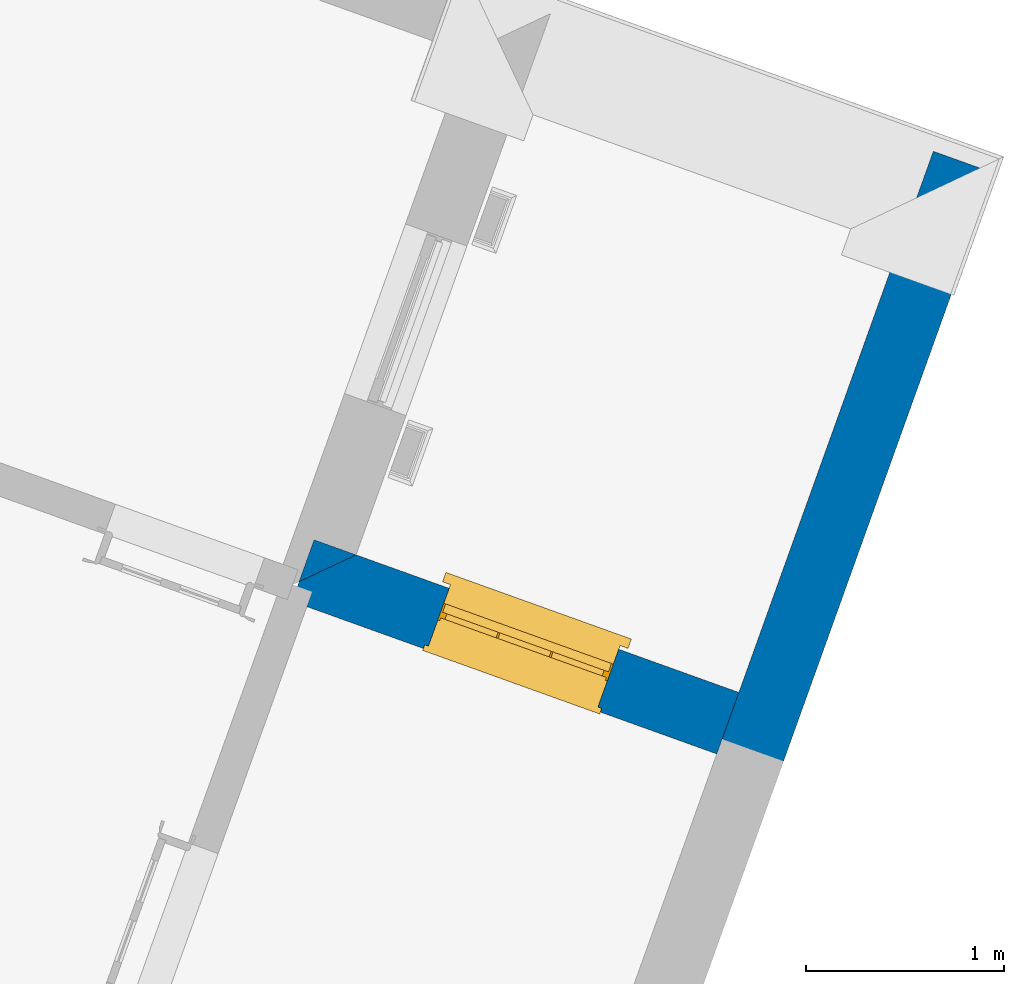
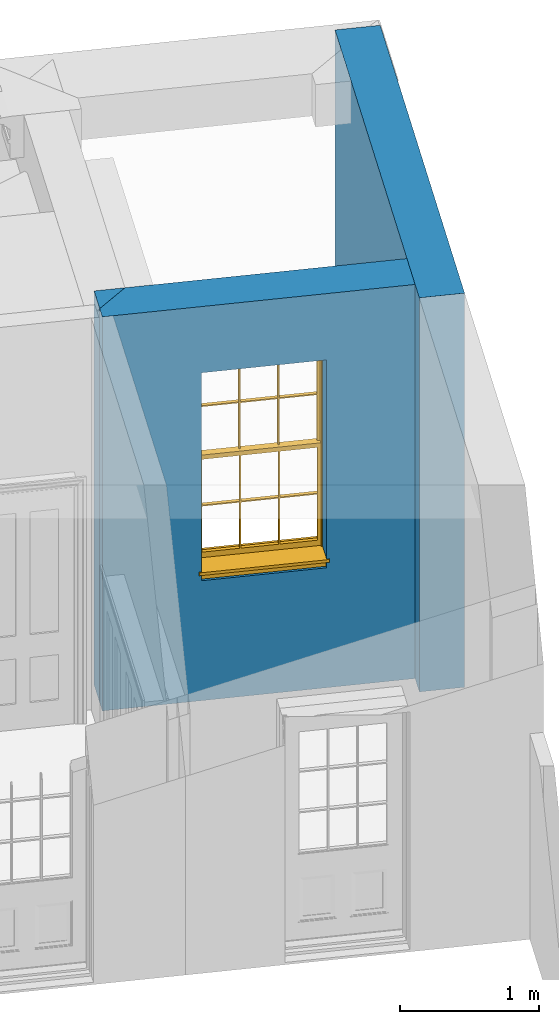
# One storey, part 5 of 8: 3 walls, 1 window, 1 opening.
"""IFC4 building model written with IfcOpenShell, lengths in metres."""

from ifc_helpers import new_model, si_unit, frame, origin, origin_with_axes, place, context, subcontext, project, spatial, polyline, outline, extrude, faceted_brep, source, transform, mapped, material, layer, layer_set, layer_usage, type_object, type_shapes, element, fill, save


model = new_model("IFC4")

# Units and contexts
model_context = context("Model", 3, world=origin_with_axes())
body_context = subcontext(model_context, "Body", "Model", "MODEL_VIEW")
ifc_project = project(units=[si_unit("PLANEANGLEUNIT", "RADIAN"), si_unit("MASSUNIT", "GRAM", prefix="KILO"), si_unit("FORCEUNIT", "NEWTON", prefix="KILO"), si_unit("LENGTHUNIT", "METRE"), si_unit("AREAUNIT", "SQUARE_METRE"), si_unit("VOLUMEUNIT", "CUBIC_METRE")], contexts=[model_context, model_context])

# Sites, building, storey
site_1_placement = place(None, origin_with_axes())
site_1 = spatial("IfcSite", under=ifc_project, at=site_1_placement, Name="Tamar")
site_2_placement = place(site_1_placement, origin_with_axes())
site_2 = spatial("IfcSite", under=site_1, at=site_2_placement, Name="Site plot-25", CompositionType="ELEMENT")
building_placement = place(None, origin_with_axes())
building = spatial("IfcBuilding", under=site_2, at=building_placement, Name="Building plot-25", CompositionType="ELEMENT")
storey_placement = place(None, frame((0.0, 0.0, 26.0), z_axis=(0.0, 0.0, 1.0), x_axis=(1.0, 0.0, 0.0)))
storey = spatial("IfcBuildingStorey", under=building, at=storey_placement, Name="plot-25 0", CompositionType="ELEMENT", Elevation=26.0)

# Wall, opening, window
ifc_material_1 = material(Name="Masonry")
ifc_layer_1 = layer(ifc_material_1, 0.33, ventilated=False)
ifc_layer_set_1 = layer_set([ifc_layer_1], Name="exterior_0.08_0.25")
ifc_layer_usage_1 = layer_usage(ifc_layer_set_1, "AXIS2", "POSITIVE", -0.25)
wall_type_1 = type_object("IfcWallType", Name="exterior_0.08_0.25", PredefinedType="SOLIDWALL", material=ifc_layer_set_1)
wall_1_placement = place(storey_placement, frame((280.510084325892, 273.203345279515, 0.0), z_axis=(0.0, 0.0, 1.0), x_axis=(-0.941087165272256, 0.338164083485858, 0.0)))
wall_1 = element("IfcWall", 1, at=wall_1_placement, inside=storey, type_object=wall_type_1, material=ifc_layer_usage_1, Name="exterior", context=body_context, shape_type="SweptSolid", body=[
    extrude(outline(polyline([(-0.249999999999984, 0.0800000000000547), (-0.250000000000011, -0.249999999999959), (2.35977770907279, -0.249999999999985), (2.35977770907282, 0.0800000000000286), (-0.249999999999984, 0.0800000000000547)])), origin_with_axes(), (0.0, 0.0, 1.0), 3.45),
])
opening_placement = place(wall_1_placement, frame((0.724888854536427, 0.0, 1.05)))
opening = element("IfcOpeningElement", 2, at=opening_placement, cuts=wall_1, Name="My Opening", ObjectType="Opening", context=body_context, shape_type="SweptSolid", body=[
    extrude(outline(polyline([(0.0, -0.27000000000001), (0.909999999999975, -0.269999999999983), (0.90999999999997, 1.10000000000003), (-4.66293670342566e-15, 1.1), (0.0, -0.27000000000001)])), origin_with_axes(), (0.0, 0.0, 1.0), 1.82),
])
window_type = type_object("IfcWindowType", Name="sash_big", PartitioningType="DOUBLE_PANEL_HORIZONTAL", PredefinedType="NOTDEFINED")
shared_shape = source(origin(), body_context, "Body", "Brep", [
    faceted_brep([(0.033125, 0.145, 0.975209), (0.01, 0.145, 0.975209), (0.033125, 0.145, 1.376042), (0.876875, 0.145, 0.975209), (0.876875, 0.145, 1.376042), (0.9, 0.145, 0.975209), (0.876875, 0.145, 1.386042), (0.876875, 0.145, 1.786875), (0.9, 0.145, 1.81), (0.033125, 0.145, 1.786875), (0.033125, 0.145, 1.386042), (0.01, 0.145, 1.81), (0.876875, 0.115, 1.376042), (0.876875, 0.115, 0.975209), (0.9, 0.115, 0.937083), (0.033125, 0.115, 1.786875), (0.01, 0.115, 1.81), (0.033125, 0.115, 1.386042), (0.01, 0.115, 0.937083), (0.033125, 0.115, 0.975209), (0.033125, 0.115, 1.376042), (0.876875, 0.115, 1.786875), (0.876875, 0.115, 1.386042), (0.9, 0.115, 1.81), (0.033125, 0.145, 0.937083), (0.01, 0.145, 0.937083), (0.033125, 0.145, 0.53625), (0.876875, 0.145, 0.937083), (0.876875, 0.145, 0.53625), (0.9, 0.145, 0.937083), (0.876875, 0.145, 0.52625), (0.876875, 0.145, 0.125417), (0.9, 0.145, 0.077167), (0.033125, 0.145, 0.125417), (0.033125, 0.145, 0.52625), (0.01, 0.145, 0.077167), (-0.0425, 0.0, 0.01), (-0.0425, -0.05, 0.001667), (0.0, 0.0, 0.01), (0.9525, 0.0, 0.01), (0.91, 0.0, 0.01), (0.9525, -0.05, 0.001667), (-0.02, 0.33, 0.077167), (0.0, 0.33, 0.077167), (-0.02, 0.36, 0.077167), (0.0, 0.19, 0.077167), (0.01, 0.19, 0.077167), (0.91, 0.19, 0.077167), (0.91, 0.33, 0.077167), (0.9, 0.19, 0.077167), (0.93, 0.33, 0.077167), (0.93, 0.36, 0.077167), (0.01, 0.175, 0.975209), (0.9, 0.175, 0.975209), (0.876875, 0.175, 0.125417), (0.876875, 0.175, 0.52625), (0.9, 0.175, 0.077167), (0.876875, 0.175, 0.53625), (0.876875, 0.175, 0.937083), (0.033125, 0.175, 0.125417), (0.01, 0.175, 0.077167), (0.033125, 0.175, 0.52625), (0.033125, 0.175, 0.937083), (0.033125, 0.175, 0.53625), (-0.02, 0.33, 0.052167), (-0.02, 0.36, 0.052167), (0.93, 0.36, 0.052167), (0.93, 0.33, 0.052167), (0.91, 0.33, 0.052167), (0.0, 0.33, 0.052167), (0.91, 0.1, 0.026667), (0.0, 0.1, 0.026667), (-0.0425, -0.05, -0.123333), (0.9525, -0.05, -0.123333), (-0.0425, 0.0, -0.123333), (0.9525, 0.0, -0.123333), (0.01, 0.19, 1.81), (0.9, 0.19, 1.81), (0.0, 0.19, 1.82), (0.91, 0.19, 1.82), (0.01, 0.1, 0.077167), (0.9, 0.1, 0.077167), (0.592292, 0.145, 0.125417), (0.592292, 0.175, 0.125417), (0.317708, 0.175, 0.125417), (0.317708, 0.145, 0.125417), (0.592292, 0.145, 0.53625), (0.317708, 0.145, 0.53625), (0.317708, 0.145, 0.52625), (0.592292, 0.145, 0.52625), (0.592292, 0.175, 0.53625), (0.317708, 0.175, 0.53625), (0.592292, 0.115, 1.386042), (0.592292, 0.145, 1.386042), (0.317708, 0.145, 1.386042), (0.317708, 0.115, 1.386042), (0.317708, 0.115, 1.376042), (0.592292, 0.115, 1.376042), (0.317708, 0.145, 1.376042), (0.592292, 0.145, 1.376042), (0.602292, 0.115, 1.376042), (0.592292, 0.115, 0.975209), (0.602292, 0.115, 0.975209), (0.602292, 0.145, 0.975209), (0.592292, 0.145, 0.975209), (0.602292, 0.145, 1.376042), (0.602292, 0.175, 0.53625), (0.602292, 0.145, 0.53625), (0.317708, 0.175, 0.52625), (0.307708, 0.175, 0.125417), (0.307708, 0.175, 0.52625), (0.602292, 0.175, 0.52625), (0.602292, 0.175, 0.125417), (0.592292, 0.175, 0.52625), (0.307708, 0.175, 0.53625), (0.317708, 0.175, 0.937083), (0.307708, 0.175, 0.937083), (0.602292, 0.175, 0.937083), (0.592292, 0.175, 0.937083), (0.307708, 0.145, 0.52625), (0.307708, 0.145, 0.125417), (0.307708, 0.145, 0.53625), (0.307708, 0.145, 0.937083), (0.592292, 0.145, 0.937083), (0.317708, 0.145, 0.937083), (0.602292, 0.145, 0.937083), (0.602292, 0.145, 0.52625), (0.602292, 0.145, 0.125417), (0.307708, 0.115, 1.386042), (0.307708, 0.115, 1.376042), (0.307708, 0.115, 0.975209), (0.317708, 0.115, 0.975209), (0.317708, 0.115, 1.786875), (0.307708, 0.115, 1.786875), (0.602292, 0.115, 1.786875), (0.592292, 0.115, 1.786875), (0.602292, 0.115, 1.386042), (0.602292, 0.145, 1.386042), (0.307708, 0.145, 1.386042), (0.307708, 0.145, 1.786875), (0.317708, 0.145, 1.786875), (0.592292, 0.145, 1.786875), (0.602292, 0.145, 1.786875), (0.307708, 0.145, 1.376042), (0.317708, 0.145, 0.975209), (0.307708, 0.145, 0.975209), (0.91, 0.1, 1.82), (0.9, 0.1, 1.81), (0.01, 0.1, 1.81), (0.0, 0.1, 1.82), (0.91, 0.0, 0.0), (0.0, 0.0, 0.0), (0.91, 0.33, 0.0), (0.0, 0.33, 0.0)], [[[0, 1, 2]], [[3, 4, 5]], [[6, 7, 8]], [[9, 10, 11]], [[12, 13, 14]], [[15, 16, 17]], [[18, 19, 20]], [[21, 22, 23]], [[24, 25, 26]], [[27, 28, 29]], [[30, 31, 32]], [[33, 34, 35]], [[14, 27, 29]], [[25, 24, 18]], [[36, 37, 38]], [[39, 40, 41]], [[42, 43, 44]], [[45, 46, 43]], [[47, 48, 49]], [[50, 51, 48]], [[1, 0, 52]], [[5, 53, 3]], [[54, 55, 56]], [[57, 58, 53]], [[59, 60, 61]], [[62, 63, 52]], [[48, 43, 46, 49]], [[51, 44, 43, 48]], [[64, 42, 44, 65]], [[65, 44, 51, 66]], [[66, 51, 50, 67]], [[65, 66, 68, 69]], [[60, 56, 49, 46]], [[70, 71, 38, 40]], [[37, 41, 40, 38]], [[37, 72, 73, 41]], [[74, 75, 73, 72]], [[8, 11, 76, 77]], [[76, 78, 79, 77]], [[32, 35, 80, 81]], [[81, 80, 71, 70]], [[82, 83, 84, 85]], [[86, 87, 88, 89]], [[86, 90, 91, 87]], [[92, 93, 94, 95]], [[92, 95, 96, 97]], [[96, 98, 99, 97]], [[100, 97, 101, 102]], [[103, 104, 99, 105]], [[97, 99, 104, 101]], [[102, 103, 105, 100]], [[28, 57, 106, 107]], [[108, 84, 109, 110]], [[111, 112, 83, 113]], [[114, 110, 61, 63]], [[90, 113, 108, 91]], [[115, 91, 114, 116]], [[117, 106, 90, 118]], [[111, 106, 57, 55]], [[119, 110, 109, 120]], [[34, 61, 110, 119]], [[89, 113, 83, 82]], [[88, 108, 113, 89]], [[85, 84, 108, 88]], [[121, 114, 63, 26]], [[122, 116, 114, 121]], [[123, 118, 90, 86]], [[87, 91, 115, 124]], [[107, 106, 117, 125]], [[126, 111, 55, 30]], [[127, 112, 111, 126]], [[126, 30, 28, 107]], [[88, 119, 120, 85]], [[126, 89, 82, 127]], [[125, 123, 86, 107]], [[121, 26, 34, 119]], [[124, 122, 121, 87]], [[128, 17, 20, 129]], [[96, 129, 130, 131]], [[132, 133, 128, 95]], [[134, 135, 92, 136]], [[100, 12, 22, 136]], [[137, 6, 4, 105]], [[94, 138, 139, 140]], [[137, 93, 141, 142]], [[99, 98, 94, 93]], [[143, 2, 10, 138]], [[144, 145, 143, 98]], [[129, 143, 145, 130]], [[20, 2, 143, 129]], [[131, 144, 98, 96]], [[128, 138, 10, 17]], [[133, 139, 138, 128]], [[135, 141, 93, 92]], [[95, 94, 140, 132]], [[22, 6, 137, 136]], [[136, 137, 142, 134]], [[100, 105, 4, 12]], [[107, 86, 89, 126]], [[106, 111, 113, 90]], [[91, 108, 110, 114]], [[87, 121, 119, 88]], [[97, 100, 136, 92]], [[129, 96, 95, 128]], [[98, 143, 138, 94]], [[105, 99, 93, 137]], [[131, 101, 104, 144]], [[124, 115, 118, 123]], [[132, 140, 141, 135]], [[120, 109, 59, 33]], [[15, 9, 139, 133]], [[134, 142, 7, 21]], [[31, 54, 112, 127]], [[36, 74, 72, 37]], [[39, 41, 73, 75]], [[18, 14, 101, 131]], [[23, 16, 132, 135]], [[83, 56, 60, 84]], [[52, 53, 118, 115]], [[53, 52, 144, 104]], [[11, 8, 141, 140]], [[14, 18, 124, 123]], [[2, 1, 11, 10]], [[8, 5, 4, 6]], [[57, 53, 56, 55]], [[60, 52, 63, 61]], [[26, 25, 35, 34]], [[32, 29, 28, 30]], [[14, 23, 22, 12]], [[18, 20, 17, 16]], [[19, 0, 2, 20]], [[17, 10, 9, 15]], [[12, 4, 3, 13]], [[21, 7, 6, 22]], [[27, 58, 57, 28]], [[30, 55, 54, 31]], [[33, 59, 61, 34]], [[26, 63, 62, 24]], [[5, 8, 77, 53]], [[76, 11, 1, 52]], [[46, 45, 78, 76]], [[49, 77, 79, 47]], [[70, 146, 147, 81]], [[71, 80, 148, 149]], [[19, 130, 145, 0]], [[102, 13, 3, 103]], [[116, 122, 24, 62]], [[29, 32, 81, 14]], [[80, 35, 25, 18]], [[60, 46, 76, 52]], [[77, 49, 56, 53]], [[23, 14, 81, 147]], [[16, 148, 80, 18]], [[35, 85, 120]], [[120, 33, 35]], [[127, 82, 32]], [[32, 31, 127]], [[32, 82, 85, 35]], [[102, 101, 14]], [[14, 13, 102]], [[18, 131, 130]], [[130, 19, 18]], [[134, 21, 23]], [[23, 135, 134]], [[16, 15, 133]], [[133, 132, 16]], [[11, 140, 139]], [[139, 9, 11]], [[142, 141, 8]], [[8, 7, 142]], [[23, 147, 148, 16]], [[146, 149, 148, 147]], [[52, 115, 116]], [[116, 62, 52]], [[118, 53, 117]], [[58, 117, 53]], [[27, 125, 117, 58]], [[56, 83, 112]], [[112, 54, 56]], [[109, 84, 60]], [[60, 59, 109]], [[125, 27, 14]], [[14, 123, 125]], [[122, 124, 18]], [[18, 24, 122]], [[145, 144, 52]], [[52, 0, 145]], [[103, 3, 53]], [[53, 104, 103]], [[79, 78, 149, 146]], [[78, 45, 71, 149]], [[146, 70, 47, 79]], [[150, 75, 74, 151]], [[68, 66, 67]], [[48, 68, 67, 50]], [[69, 64, 65]], [[42, 64, 69, 43]], [[69, 68, 152, 153]], [[70, 68, 48, 47]], [[150, 152, 68, 70]], [[43, 69, 71, 45]], [[69, 153, 151, 71]], [[152, 150, 151, 153]], [[38, 151, 74, 36]], [[71, 151, 38]], [[39, 75, 150, 40]], [[40, 150, 70]]]),
])
type_shapes(window_type, [shared_shape])
window_placement = place(storey_placement, frame((279.91920503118, 273.702570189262, 1.05), z_axis=(0.0, 0.0, 1.0), x_axis=(-0.856389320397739, 0.307729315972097, 0.0)))
window = element("IfcWindow", 3, at=window_placement, inside=storey, type_object=window_type, Name="kitchen outside window", OverallHeight=1.82, OverallWidth=0.91, context=body_context, shape_type="MappedRepresentation", body=[
    mapped(shared_shape, transform((0.0, 0.0, 0.0), scale=1.0)),
])
fill(opening, window)

# Walls
wall_2_placement = place(storey_placement, frame((278.289327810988, 274.001337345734, 0.0), z_axis=(0.0, 0.0, 1.0), x_axis=(-0.941087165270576, 0.338164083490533, 0.0)))
element("IfcWall", 4, at=wall_2_placement, inside=storey, type_object=wall_type_1, material=ifc_layer_usage_1, Name="exterior", context=body_context, shape_type="SweptSolid", body=[
    extrude(outline(polyline([(-3.96406893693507e-13, 0.0800000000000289), (1.21615360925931e-12, -0.249999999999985), (-0.224922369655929, -0.250000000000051), (0.105077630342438, 0.0799999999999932), (-3.96406893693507e-13, 0.0800000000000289)])), origin_with_axes(), (0.0, 0.0, 1.0), 3.45),
])
ifc_material_2 = material(Name="Masonry")
ifc_layer_2 = layer(ifc_material_2, 0.33, ventilated=False)
ifc_layer_set_2 = layer_set([ifc_layer_2], Name="party_0.08_0.25")
ifc_layer_usage_2 = layer_usage(ifc_layer_set_2, "AXIS2", "POSITIVE", -0.25)
wall_type_2 = type_object("IfcWallType", Name="party_0.08_0.25", PredefinedType="SOLIDWALL", material=ifc_layer_set_2)
wall_3_placement = place(storey_placement, frame((280.510084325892, 273.203345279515, 0.0), z_axis=(0.0, 0.0, 1.0), x_axis=(0.33816408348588, 0.941087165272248, 0.0)))
element("IfcWall", 5, at=wall_3_placement, inside=storey, type_object=wall_type_2, material=ifc_layer_usage_2, Name="party", context=body_context, shape_type="SweptSolid", body=[
    extrude(outline(polyline([(-0.249999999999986, 0.080000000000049), (-0.250000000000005, -0.249999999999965), (3.15419198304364, -0.250000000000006), (3.15419198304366, 0.0800000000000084), (-0.249999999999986, 0.080000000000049)])), origin_with_axes(), (0.0, 0.0, 1.0), 3.45),
])

save(model, "model.ifc")
